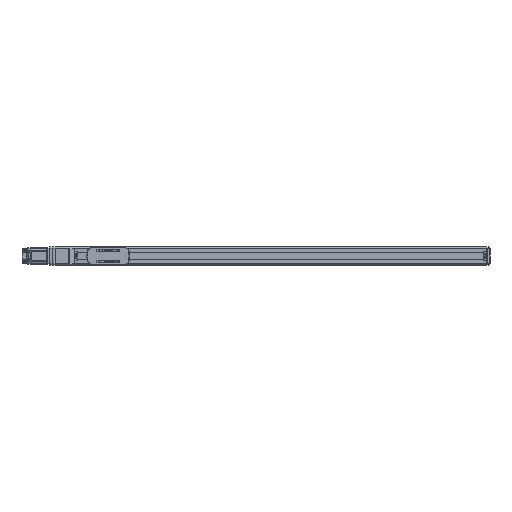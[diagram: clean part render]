
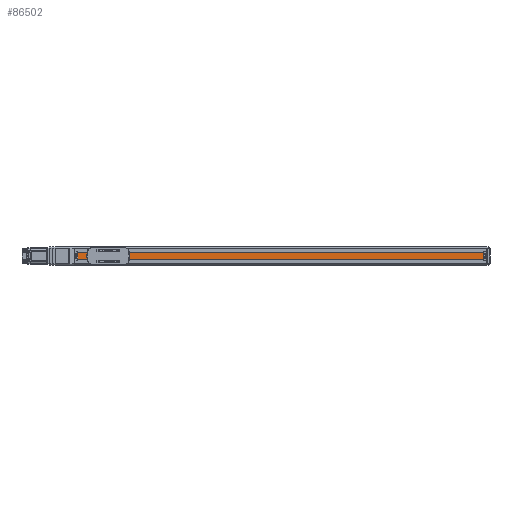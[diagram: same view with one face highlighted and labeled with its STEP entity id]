
A CAD part, top view. The second image highlights one B-rep face of the part: STEP entity #86502.
In plain terms, the highlighted planar face has unit normal (0, 0, 1) as drawn and (0, 1, 0) by its records, which use the part's own axes.
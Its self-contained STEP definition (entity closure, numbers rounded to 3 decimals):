
#86502 = ADVANCED_FACE('',(#86503),#86517,.T.);
#86503 = FACE_BOUND('',#86504,.T.);
#86504 = EDGE_LOOP('',(#86505,#86540,#86568,#86596));
#86505 = ORIENTED_EDGE('',*,*,#86506,.F.);
#86506 = EDGE_CURVE('',#86507,#86509,#86511,.T.);
#86507 = VERTEX_POINT('',#86508);
#86508 = CARTESIAN_POINT('',(-1430.5,18.,-13.));
#86509 = VERTEX_POINT('',#86510);
#86510 = CARTESIAN_POINT('',(-21.5,18.,-13.));
#86511 = SURFACE_CURVE('',#86512,(#86516,#86528),.PCURVE_S1.);
#86512 = LINE('',#86513,#86514);
#86513 = CARTESIAN_POINT('',(-1430.5,18.,-13.));
#86514 = VECTOR('',#86515,1.);
#86515 = DIRECTION('',(1.,0.,0.));
#86516 = PCURVE('',#86517,#86522);
#86517 = PLANE('',#86518);
#86518 = AXIS2_PLACEMENT_3D('',#86519,#86520,#86521);
#86519 = CARTESIAN_POINT('',(-1440.5,18.,-26.583));
#86520 = DIRECTION('',(0.,1.,0.));
#86521 = DIRECTION('',(0.,-0.,1.));
#86522 = DEFINITIONAL_REPRESENTATION('',(#86523),#86527);
#86523 = LINE('',#86524,#86525);
#86524 = CARTESIAN_POINT('',(13.583,10.));
#86525 = VECTOR('',#86526,1.);
#86526 = DIRECTION('',(0.,1.));
#86527 = ( GEOMETRIC_REPRESENTATION_CONTEXT(2) 
PARAMETRIC_REPRESENTATION_CONTEXT() REPRESENTATION_CONTEXT('2D SPACE',''
  ) );
#86528 = PCURVE('',#86529,#86534);
#86529 = PLANE('',#86530);
#86530 = AXIS2_PLACEMENT_3D('',#86531,#86532,#86533);
#86531 = CARTESIAN_POINT('',(-1430.5,18.,-13.));
#86532 = DIRECTION('',(0.,0.,1.));
#86533 = DIRECTION('',(1.,0.,-0.));
#86534 = DEFINITIONAL_REPRESENTATION('',(#86535),#86539);
#86535 = LINE('',#86536,#86537);
#86536 = CARTESIAN_POINT('',(0.,0.));
#86537 = VECTOR('',#86538,1.);
#86538 = DIRECTION('',(1.,0.));
#86539 = ( GEOMETRIC_REPRESENTATION_CONTEXT(2) 
PARAMETRIC_REPRESENTATION_CONTEXT() REPRESENTATION_CONTEXT('2D SPACE',''
  ) );
#86540 = ORIENTED_EDGE('',*,*,#86541,.T.);
#86541 = EDGE_CURVE('',#86507,#86542,#86544,.T.);
#86542 = VERTEX_POINT('',#86543);
#86543 = CARTESIAN_POINT('',(-1430.5,18.,13.));
#86544 = SURFACE_CURVE('',#86545,(#86549,#86556),.PCURVE_S1.);
#86545 = LINE('',#86546,#86547);
#86546 = CARTESIAN_POINT('',(-1430.5,18.,-26.583));
#86547 = VECTOR('',#86548,1.);
#86548 = DIRECTION('',(0.,0.,1.));
#86549 = PCURVE('',#86517,#86550);
#86550 = DEFINITIONAL_REPRESENTATION('',(#86551),#86555);
#86551 = LINE('',#86552,#86553);
#86552 = CARTESIAN_POINT('',(0.,10.));
#86553 = VECTOR('',#86554,1.);
#86554 = DIRECTION('',(1.,0.));
#86555 = ( GEOMETRIC_REPRESENTATION_CONTEXT(2) 
PARAMETRIC_REPRESENTATION_CONTEXT() REPRESENTATION_CONTEXT('2D SPACE',''
  ) );
#86556 = PCURVE('',#86557,#86562);
#86557 = PLANE('',#86558);
#86558 = AXIS2_PLACEMENT_3D('',#86559,#86560,#86561);
#86559 = CARTESIAN_POINT('',(-1430.5,0.,0.));
#86560 = DIRECTION('',(1.,0.,0.));
#86561 = DIRECTION('',(0.,0.,-1.));
#86562 = DEFINITIONAL_REPRESENTATION('',(#86563),#86567);
#86563 = LINE('',#86564,#86565);
#86564 = CARTESIAN_POINT('',(26.583,18.));
#86565 = VECTOR('',#86566,1.);
#86566 = DIRECTION('',(-1.,0.));
#86567 = ( GEOMETRIC_REPRESENTATION_CONTEXT(2) 
PARAMETRIC_REPRESENTATION_CONTEXT() REPRESENTATION_CONTEXT('2D SPACE',''
  ) );
#86568 = ORIENTED_EDGE('',*,*,#86569,.T.);
#86569 = EDGE_CURVE('',#86542,#86570,#86572,.T.);
#86570 = VERTEX_POINT('',#86571);
#86571 = CARTESIAN_POINT('',(-21.5,18.,13.));
#86572 = SURFACE_CURVE('',#86573,(#86577,#86584),.PCURVE_S1.);
#86573 = LINE('',#86574,#86575);
#86574 = CARTESIAN_POINT('',(-1430.5,18.,13.));
#86575 = VECTOR('',#86576,1.);
#86576 = DIRECTION('',(1.,0.,0.));
#86577 = PCURVE('',#86517,#86578);
#86578 = DEFINITIONAL_REPRESENTATION('',(#86579),#86583);
#86579 = LINE('',#86580,#86581);
#86580 = CARTESIAN_POINT('',(39.583,10.));
#86581 = VECTOR('',#86582,1.);
#86582 = DIRECTION('',(0.,1.));
#86583 = ( GEOMETRIC_REPRESENTATION_CONTEXT(2) 
PARAMETRIC_REPRESENTATION_CONTEXT() REPRESENTATION_CONTEXT('2D SPACE',''
  ) );
#86584 = PCURVE('',#86585,#86590);
#86585 = PLANE('',#86586);
#86586 = AXIS2_PLACEMENT_3D('',#86587,#86588,#86589);
#86587 = CARTESIAN_POINT('',(-1430.5,15.,13.));
#86588 = DIRECTION('',(0.,0.,-1.));
#86589 = DIRECTION('',(-1.,0.,0.));
#86590 = DEFINITIONAL_REPRESENTATION('',(#86591),#86595);
#86591 = LINE('',#86592,#86593);
#86592 = CARTESIAN_POINT('',(0.,3.));
#86593 = VECTOR('',#86594,1.);
#86594 = DIRECTION('',(-1.,0.));
#86595 = ( GEOMETRIC_REPRESENTATION_CONTEXT(2) 
PARAMETRIC_REPRESENTATION_CONTEXT() REPRESENTATION_CONTEXT('2D SPACE',''
  ) );
#86596 = ORIENTED_EDGE('',*,*,#86597,.T.);
#86597 = EDGE_CURVE('',#86570,#86509,#86598,.T.);
#86598 = SURFACE_CURVE('',#86599,(#86603,#86610),.PCURVE_S1.);
#86599 = LINE('',#86600,#86601);
#86600 = CARTESIAN_POINT('',(-21.5,18.,-26.583));
#86601 = VECTOR('',#86602,1.);
#86602 = DIRECTION('',(0.,0.,-1.));
#86603 = PCURVE('',#86517,#86604);
#86604 = DEFINITIONAL_REPRESENTATION('',(#86605),#86609);
#86605 = LINE('',#86606,#86607);
#86606 = CARTESIAN_POINT('',(0.,1419.));
#86607 = VECTOR('',#86608,1.);
#86608 = DIRECTION('',(-1.,0.));
#86609 = ( GEOMETRIC_REPRESENTATION_CONTEXT(2) 
PARAMETRIC_REPRESENTATION_CONTEXT() REPRESENTATION_CONTEXT('2D SPACE',''
  ) );
#86610 = PCURVE('',#86611,#86616);
#86611 = PLANE('',#86612);
#86612 = AXIS2_PLACEMENT_3D('',#86613,#86614,#86615);
#86613 = CARTESIAN_POINT('',(-21.5,0.,0.));
#86614 = DIRECTION('',(1.,0.,0.));
#86615 = DIRECTION('',(0.,0.,-1.));
#86616 = DEFINITIONAL_REPRESENTATION('',(#86617),#86621);
#86617 = LINE('',#86618,#86619);
#86618 = CARTESIAN_POINT('',(26.583,18.));
#86619 = VECTOR('',#86620,1.);
#86620 = DIRECTION('',(1.,0.));
#86621 = ( GEOMETRIC_REPRESENTATION_CONTEXT(2) 
PARAMETRIC_REPRESENTATION_CONTEXT() REPRESENTATION_CONTEXT('2D SPACE',''
  ) );
